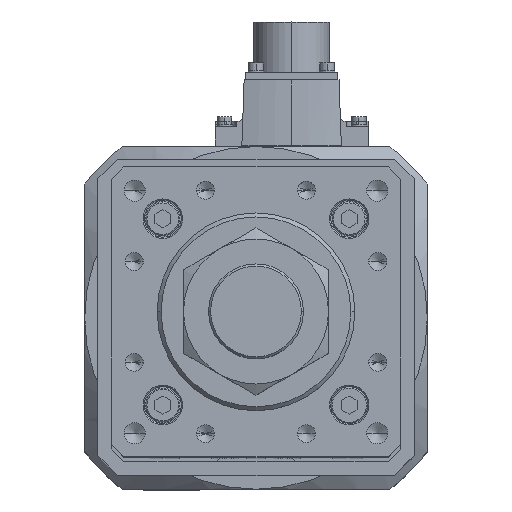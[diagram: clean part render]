
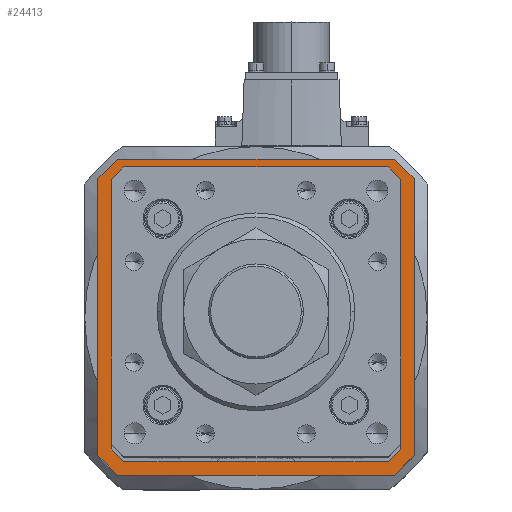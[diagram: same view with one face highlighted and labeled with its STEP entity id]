
A CAD part, top view. The second image highlights one B-rep face of the part: STEP entity #24413.
In plain terms, the highlighted planar face has unit normal (0, 0, 1).
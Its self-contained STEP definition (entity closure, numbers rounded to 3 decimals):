
#787 = EDGE_CURVE ( 'NONE', #8913, #9257, #29701, .T. ) ;
#1054 = LINE ( 'NONE', #27916, #11953 ) ;
#1255 = LINE ( 'NONE', #5342, #30325 ) ;
#1533 = EDGE_LOOP ( 'NONE', ( #35676, #30594, #8480, #30696, #33118, #34034, #16985, #8347 ) ) ;
#1611 = EDGE_CURVE ( 'NONE', #22549, #8931, #34171, .T. ) ;
#1721 = ORIENTED_EDGE ( 'NONE', *, *, #5738, .T. ) ;
#1891 = VERTEX_POINT ( 'NONE', #11332 ) ;
#2288 = VECTOR ( 'NONE', #13334, 1000. ) ;
#2575 = CARTESIAN_POINT ( 'NONE',  ( 49.446, -53.646, -119. ) ) ;
#2955 = DIRECTION ( 'NONE',  ( -1., 0., 0. ) ) ;
#3158 = VECTOR ( 'NONE', #25414, 1000. ) ;
#3695 = DIRECTION ( 'NONE',  ( 1., 0., 0. ) ) ;
#4264 = EDGE_CURVE ( 'NONE', #15123, #33313, #1054, .T. ) ;
#4371 = ORIENTED_EDGE ( 'NONE', *, *, #12573, .T. ) ;
#5234 = CARTESIAN_POINT ( 'NONE',  ( -53.5, 49.8, -119. ) ) ;
#5342 = CARTESIAN_POINT ( 'NONE',  ( -53.646, -49.446, -119. ) ) ;
#5628 = DIRECTION ( 'NONE',  ( 0., 1., 0. ) ) ;
#5738 = EDGE_CURVE ( 'NONE', #8931, #6523, #13674, .T. ) ;
#5956 = EDGE_CURVE ( 'NONE', #14853, #35239, #15027, .T. ) ;
#6325 = ORIENTED_EDGE ( 'NONE', *, *, #1611, .T. ) ;
#6368 = FACE_OUTER_BOUND ( 'NONE', #1533, .T. ) ;
#6523 = VERTEX_POINT ( 'NONE', #15135 ) ;
#7100 = CARTESIAN_POINT ( 'NONE',  ( -52.5, 60., -119. ) ) ;
#7342 = CARTESIAN_POINT ( 'NONE',  ( -49.446, 53.646, -119. ) ) ;
#7576 = VECTOR ( 'NONE', #36209, 1000. ) ;
#7692 = CARTESIAN_POINT ( 'NONE',  ( 60., 52.5, -119. ) ) ;
#8056 = CARTESIAN_POINT ( 'NONE',  ( -53.5, 49.593, -119. ) ) ;
#8232 = CARTESIAN_POINT ( 'NONE',  ( 52.5, 60., -119. ) ) ;
#8347 = ORIENTED_EDGE ( 'NONE', *, *, #36447, .F. ) ;
#8480 = ORIENTED_EDGE ( 'NONE', *, *, #15362, .F. ) ;
#8913 = VERTEX_POINT ( 'NONE', #37607 ) ;
#8931 = VERTEX_POINT ( 'NONE', #16984 ) ;
#9257 = VERTEX_POINT ( 'NONE', #31411 ) ;
#10017 = VECTOR ( 'NONE', #13427, 1000. ) ;
#10101 = ORIENTED_EDGE ( 'NONE', *, *, #15139, .T. ) ;
#10116 = CARTESIAN_POINT ( 'NONE',  ( 49.8, 53.5, -119. ) ) ;
#10138 = CARTESIAN_POINT ( 'NONE',  ( 49.593, -53.5, -119. ) ) ;
#10954 = FACE_BOUND ( 'NONE', #17740, .T. ) ;
#11332 = CARTESIAN_POINT ( 'NONE',  ( 60., -52.5, -119. ) ) ;
#11932 = ORIENTED_EDGE ( 'NONE', *, *, #5956, .T. ) ;
#11953 = VECTOR ( 'NONE', #30539, 1000. ) ;
#12064 = PLANE ( 'NONE',  #37328 ) ;
#12568 = VECTOR ( 'NONE', #15862, 1000. ) ;
#12573 = EDGE_CURVE ( 'NONE', #37190, #14853, #1255, .T. ) ;
#12646 = CARTESIAN_POINT ( 'NONE',  ( 53.5, -49.8, -119. ) ) ;
#12743 = VECTOR ( 'NONE', #13904, 1000. ) ;
#13334 = DIRECTION ( 'NONE',  ( 0.707, -0.707, 0. ) ) ;
#13427 = DIRECTION ( 'NONE',  ( -1., 0., 0. ) ) ;
#13447 = EDGE_CURVE ( 'NONE', #17752, #1891, #18516, .T. ) ;
#13674 = LINE ( 'NONE', #30709, #2288 ) ;
#13759 = VECTOR ( 'NONE', #35891, 1000. ) ;
#13828 = DIRECTION ( 'NONE',  ( 1., 0., 0. ) ) ;
#13880 = ORIENTED_EDGE ( 'NONE', *, *, #21299, .T. ) ;
#13904 = DIRECTION ( 'NONE',  ( 0., 1., 0. ) ) ;
#14339 = CARTESIAN_POINT ( 'NONE',  ( -60., -52.5, -119. ) ) ;
#14432 = VERTEX_POINT ( 'NONE', #14339 ) ;
#14853 = VERTEX_POINT ( 'NONE', #34548 ) ;
#15027 = LINE ( 'NONE', #5234, #12743 ) ;
#15123 = VERTEX_POINT ( 'NONE', #36160 ) ;
#15135 = CARTESIAN_POINT ( 'NONE',  ( 53.5, 49.593, -119. ) ) ;
#15139 = EDGE_CURVE ( 'NONE', #35239, #22549, #32396, .T. ) ;
#15160 = DIRECTION ( 'NONE',  ( 0., 0., 1. ) ) ;
#15362 = EDGE_CURVE ( 'NONE', #14432, #15123, #15624, .T. ) ;
#15513 = LINE ( 'NONE', #30810, #10017 ) ;
#15624 = LINE ( 'NONE', #23129, #22043 ) ;
#15862 = DIRECTION ( 'NONE',  ( 0., -1., 0. ) ) ;
#16009 = LINE ( 'NONE', #2575, #30008 ) ;
#16468 = CARTESIAN_POINT ( 'NONE',  ( 53.5, -49.593, -119. ) ) ;
#16984 = CARTESIAN_POINT ( 'NONE',  ( 49.593, 53.5, -119. ) ) ;
#16985 = ORIENTED_EDGE ( 'NONE', *, *, #13447, .F. ) ;
#17091 = VECTOR ( 'NONE', #21729, 1000. ) ;
#17123 = DIRECTION ( 'NONE',  ( -0.707, -0.707, 0. ) ) ;
#17306 = DIRECTION ( 'NONE',  ( 0.707, -0.707, 0. ) ) ;
#17453 = CARTESIAN_POINT ( 'NONE',  ( 52.5, 60., -119. ) ) ;
#17740 = EDGE_LOOP ( 'NONE', ( #6325, #1721, #13880, #36684, #30100, #4371, #11932, #10101 ) ) ;
#17752 = VERTEX_POINT ( 'NONE', #7692 ) ;
#17960 = EDGE_CURVE ( 'NONE', #32930, #27471, #16009, .T. ) ;
#18498 = LINE ( 'NONE', #8232, #30230 ) ;
#18516 = LINE ( 'NONE', #22190, #7576 ) ;
#18619 = VERTEX_POINT ( 'NONE', #17453 ) ;
#19363 = CARTESIAN_POINT ( 'NONE',  ( 60., -52.5, -119. ) ) ;
#19598 = LINE ( 'NONE', #19363, #3158 ) ;
#20682 = CARTESIAN_POINT ( 'NONE',  ( 52.5, -60., -119. ) ) ;
#21226 = CARTESIAN_POINT ( 'NONE',  ( -52.5, -60., -119. ) ) ;
#21299 = EDGE_CURVE ( 'NONE', #6523, #32930, #27580, .T. ) ;
#21729 = DIRECTION ( 'NONE',  ( -0.707, 0.707, 0. ) ) ;
#22043 = VECTOR ( 'NONE', #5628, 1000. ) ;
#22190 = CARTESIAN_POINT ( 'NONE',  ( 60., 52.5, -119. ) ) ;
#22460 = DIRECTION ( 'NONE',  ( -0.707, 0.707, 0. ) ) ;
#22549 = VERTEX_POINT ( 'NONE', #34457 ) ;
#23129 = CARTESIAN_POINT ( 'NONE',  ( -60., 52.5, -119. ) ) ;
#24413 = ADVANCED_FACE ( 'NONE', ( #10954, #6368 ), #12064, .T. ) ;
#25414 = DIRECTION ( 'NONE',  ( -0.707, -0.707, 0. ) ) ;
#26967 = CARTESIAN_POINT ( 'NONE',  ( 0., 0., -119. ) ) ;
#27471 = VERTEX_POINT ( 'NONE', #10138 ) ;
#27580 = LINE ( 'NONE', #12646, #12568 ) ;
#27898 = VECTOR ( 'NONE', #29924, 1000. ) ;
#27916 = CARTESIAN_POINT ( 'NONE',  ( -52.5, 60., -119. ) ) ;
#28822 = EDGE_CURVE ( 'NONE', #1891, #8913, #19598, .T. ) ;
#29701 = LINE ( 'NONE', #20682, #30126 ) ;
#29924 = DIRECTION ( 'NONE',  ( 0.707, 0.707, 0. ) ) ;
#30008 = VECTOR ( 'NONE', #17123, 1000. ) ;
#30100 = ORIENTED_EDGE ( 'NONE', *, *, #33843, .T. ) ;
#30126 = VECTOR ( 'NONE', #2955, 1000. ) ;
#30230 = VECTOR ( 'NONE', #13828, 1000. ) ;
#30325 = VECTOR ( 'NONE', #22460, 1000. ) ;
#30539 = DIRECTION ( 'NONE',  ( 0.707, 0.707, 0. ) ) ;
#30594 = ORIENTED_EDGE ( 'NONE', *, *, #4264, .F. ) ;
#30696 = ORIENTED_EDGE ( 'NONE', *, *, #31746, .F. ) ;
#30709 = CARTESIAN_POINT ( 'NONE',  ( 53.646, 49.446, -119. ) ) ;
#30810 = CARTESIAN_POINT ( 'NONE',  ( -49.8, -53.5, -119. ) ) ;
#31307 = EDGE_CURVE ( 'NONE', #33313, #18619, #18498, .T. ) ;
#31411 = CARTESIAN_POINT ( 'NONE',  ( -52.5, -60., -119. ) ) ;
#31746 = EDGE_CURVE ( 'NONE', #9257, #14432, #32906, .T. ) ;
#32396 = LINE ( 'NONE', #7342, #27898 ) ;
#32837 = CARTESIAN_POINT ( 'NONE',  ( -49.593, -53.5, -119. ) ) ;
#32906 = LINE ( 'NONE', #21226, #17091 ) ;
#32930 = VERTEX_POINT ( 'NONE', #16468 ) ;
#33118 = ORIENTED_EDGE ( 'NONE', *, *, #787, .F. ) ;
#33313 = VERTEX_POINT ( 'NONE', #7100 ) ;
#33843 = EDGE_CURVE ( 'NONE', #27471, #37190, #15513, .T. ) ;
#34034 = ORIENTED_EDGE ( 'NONE', *, *, #28822, .F. ) ;
#34171 = LINE ( 'NONE', #10116, #13759 ) ;
#34457 = CARTESIAN_POINT ( 'NONE',  ( -49.593, 53.5, -119. ) ) ;
#34548 = CARTESIAN_POINT ( 'NONE',  ( -53.5, -49.593, -119. ) ) ;
#34624 = CARTESIAN_POINT ( 'NONE',  ( 60., 52.5, -119. ) ) ;
#35239 = VERTEX_POINT ( 'NONE', #8056 ) ;
#35676 = ORIENTED_EDGE ( 'NONE', *, *, #31307, .F. ) ;
#35773 = VECTOR ( 'NONE', #17306, 1000. ) ;
#35891 = DIRECTION ( 'NONE',  ( 1., 0., 0. ) ) ;
#36160 = CARTESIAN_POINT ( 'NONE',  ( -60., 52.5, -119. ) ) ;
#36209 = DIRECTION ( 'NONE',  ( 0., -1., 0. ) ) ;
#36447 = EDGE_CURVE ( 'NONE', #18619, #17752, #37604, .T. ) ;
#36684 = ORIENTED_EDGE ( 'NONE', *, *, #17960, .T. ) ;
#37190 = VERTEX_POINT ( 'NONE', #32837 ) ;
#37328 = AXIS2_PLACEMENT_3D ( 'NONE', #26967, #15160, #3695 ) ;
#37604 = LINE ( 'NONE', #34624, #35773 ) ;
#37607 = CARTESIAN_POINT ( 'NONE',  ( 52.5, -60., -119. ) ) ;
